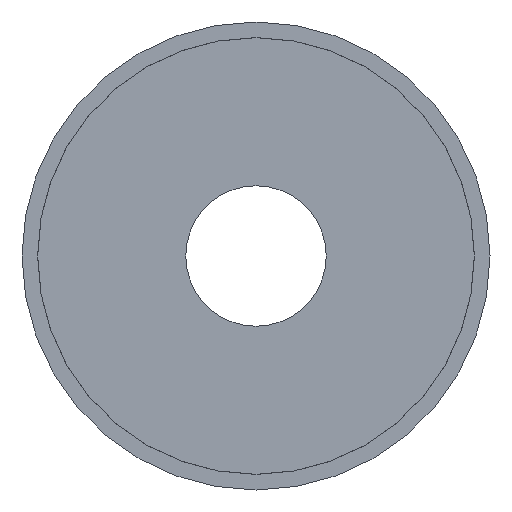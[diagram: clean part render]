
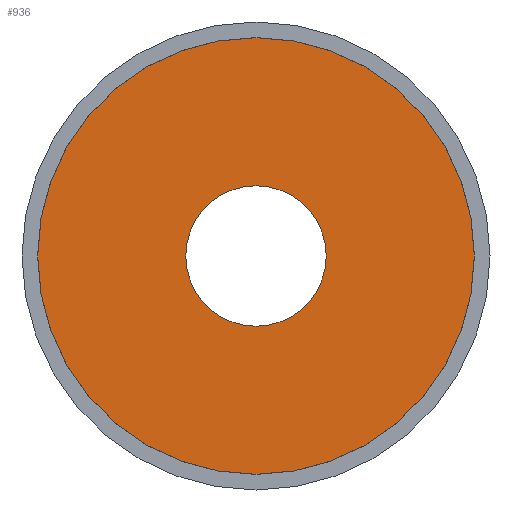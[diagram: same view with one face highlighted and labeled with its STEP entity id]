
A CAD part, front view. The second image highlights one B-rep face of the part: STEP entity #936.
In plain terms, the highlighted planar face has unit normal (0, -1, 0).
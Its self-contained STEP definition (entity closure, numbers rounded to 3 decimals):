
#15 = DIRECTION ( 'NONE',  ( 1., 0., 0. ) ) ;
#89 = DIRECTION ( 'NONE',  ( 0., 0., -1. ) ) ;
#130 = AXIS2_PLACEMENT_3D ( 'NONE', #431, #722, #362 ) ;
#167 = ORIENTED_EDGE ( 'NONE', *, *, #541, .T. ) ;
#188 = CARTESIAN_POINT ( 'NONE',  ( 9., -15., 0. ) ) ;
#206 = CARTESIAN_POINT ( 'NONE',  ( 0., -15., 0. ) ) ;
#211 = DIRECTION ( 'NONE',  ( 0., -1., 0. ) ) ;
#228 = CARTESIAN_POINT ( 'NONE',  ( 0., -15., -27.99 ) ) ;
#258 = PLANE ( 'NONE',  #898 ) ;
#287 = CIRCLE ( 'NONE', #560, 27.99 ) ;
#336 = VERTEX_POINT ( 'NONE', #833 ) ;
#362 = DIRECTION ( 'NONE',  ( -1., 0., 0. ) ) ;
#383 = CIRCLE ( 'NONE', #822, 27.99 ) ;
#431 = CARTESIAN_POINT ( 'NONE',  ( 0., -15., 0. ) ) ;
#462 = DIRECTION ( 'NONE',  ( 0., 0., -1. ) ) ;
#541 = EDGE_CURVE ( 'NONE', #693, #863, #713, .T. ) ;
#547 = CARTESIAN_POINT ( 'NONE',  ( -30., -15., 0. ) ) ;
#550 = EDGE_CURVE ( 'NONE', #863, #693, #684, .T. ) ;
#560 = AXIS2_PLACEMENT_3D ( 'NONE', #206, #211, #462 ) ;
#563 = CARTESIAN_POINT ( 'NONE',  ( -9., -15., 0. ) ) ;
#568 = EDGE_LOOP ( 'NONE', ( #602, #726 ) ) ;
#580 = CARTESIAN_POINT ( 'NONE',  ( 0., -15., 0. ) ) ;
#582 = EDGE_LOOP ( 'NONE', ( #167, #610 ) ) ;
#602 = ORIENTED_EDGE ( 'NONE', *, *, #759, .T. ) ;
#610 = ORIENTED_EDGE ( 'NONE', *, *, #550, .T. ) ;
#658 = DIRECTION ( 'NONE',  ( 0., 1., 0. ) ) ;
#677 = DIRECTION ( 'NONE',  ( 0., -1., 0. ) ) ;
#684 = CIRCLE ( 'NONE', #788, 9. ) ;
#689 = FACE_OUTER_BOUND ( 'NONE', #568, .T. ) ;
#693 = VERTEX_POINT ( 'NONE', #563 ) ;
#713 = CIRCLE ( 'NONE', #130, 9. ) ;
#722 = DIRECTION ( 'NONE',  ( 0., 1., 0. ) ) ;
#726 = ORIENTED_EDGE ( 'NONE', *, *, #952, .T. ) ;
#730 = CARTESIAN_POINT ( 'NONE',  ( 0., -15., 0. ) ) ;
#759 = EDGE_CURVE ( 'NONE', #840, #336, #287, .T. ) ;
#788 = AXIS2_PLACEMENT_3D ( 'NONE', #730, #658, #956 ) ;
#822 = AXIS2_PLACEMENT_3D ( 'NONE', #580, #957, #89 ) ;
#833 = CARTESIAN_POINT ( 'NONE',  ( 0., -15., 27.99 ) ) ;
#840 = VERTEX_POINT ( 'NONE', #228 ) ;
#863 = VERTEX_POINT ( 'NONE', #188 ) ;
#898 = AXIS2_PLACEMENT_3D ( 'NONE', #547, #677, #15 ) ;
#908 = FACE_BOUND ( 'NONE', #582, .T. ) ;
#936 = ADVANCED_FACE ( 'NONE', ( #908, #689 ), #258, .T. ) ;
#952 = EDGE_CURVE ( 'NONE', #336, #840, #383, .T. ) ;
#956 = DIRECTION ( 'NONE',  ( -1., 0., 0. ) ) ;
#957 = DIRECTION ( 'NONE',  ( 0., -1., 0. ) ) ;
